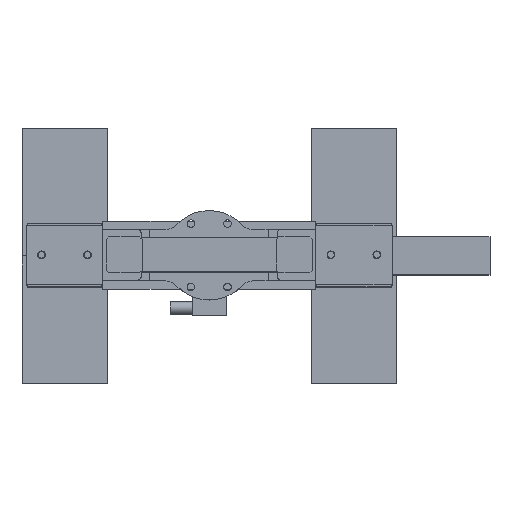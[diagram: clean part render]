
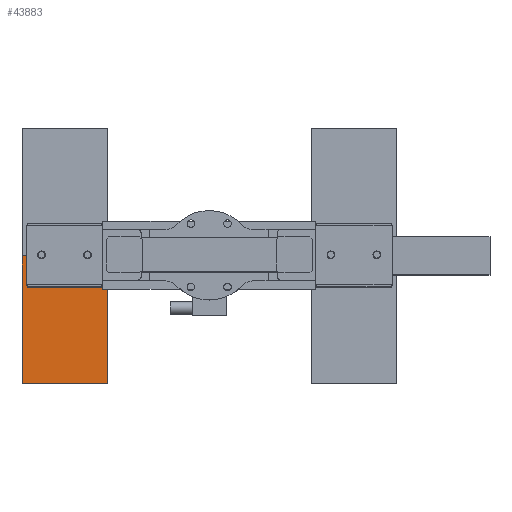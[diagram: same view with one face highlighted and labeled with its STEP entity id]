
A CAD part, top view. The second image highlights one B-rep face of the part: STEP entity #43883.
In plain terms, the highlighted planar face has unit normal (0, 0, 1).
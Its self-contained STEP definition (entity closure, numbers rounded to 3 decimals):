
#43669 = VERTEX_POINT('',#43670);
#43670 = CARTESIAN_POINT('',(-220.,-150.,60.));
#43676 = EDGE_CURVE('',#43669,#43677,#43679,.T.);
#43677 = VERTEX_POINT('',#43678);
#43678 = CARTESIAN_POINT('',(-120.,-150.,60.));
#43679 = LINE('',#43680,#43681);
#43680 = CARTESIAN_POINT('',(-220.,-150.,60.));
#43681 = VECTOR('',#43682,1.);
#43682 = DIRECTION('',(1.,0.,0.));
#43737 = VERTEX_POINT('',#43738);
#43738 = CARTESIAN_POINT('',(-220.,0.,60.));
#43744 = EDGE_CURVE('',#43669,#43737,#43745,.T.);
#43745 = LINE('',#43746,#43747);
#43746 = CARTESIAN_POINT('',(-220.,-150.,60.));
#43747 = VECTOR('',#43748,1.);
#43748 = DIRECTION('',(0.,1.,0.));
#43866 = VERTEX_POINT('',#43867);
#43867 = CARTESIAN_POINT('',(-120.,0.,60.));
#43873 = EDGE_CURVE('',#43677,#43866,#43874,.T.);
#43874 = LINE('',#43875,#43876);
#43875 = CARTESIAN_POINT('',(-120.,-150.,60.));
#43876 = VECTOR('',#43877,1.);
#43877 = DIRECTION('',(0.,1.,0.));
#43883 = ADVANCED_FACE('',(#43884),#43927,.T.);
#43884 = FACE_BOUND('',#43885,.T.);
#43885 = EDGE_LOOP('',(#43886,#43894,#43895,#43896,#43897,#43905,#43913,
    #43921));
#43886 = ORIENTED_EDGE('',*,*,#43887,.F.);
#43887 = EDGE_CURVE('',#43737,#43888,#43890,.T.);
#43888 = VERTEX_POINT('',#43889);
#43889 = CARTESIAN_POINT('',(-215.,0.,60.));
#43890 = LINE('',#43891,#43892);
#43891 = CARTESIAN_POINT('',(-220.,0.,60.));
#43892 = VECTOR('',#43893,1.);
#43893 = DIRECTION('',(1.,0.,0.));
#43894 = ORIENTED_EDGE('',*,*,#43744,.F.);
#43895 = ORIENTED_EDGE('',*,*,#43676,.T.);
#43896 = ORIENTED_EDGE('',*,*,#43873,.T.);
#43897 = ORIENTED_EDGE('',*,*,#43898,.F.);
#43898 = EDGE_CURVE('',#43899,#43866,#43901,.T.);
#43899 = VERTEX_POINT('',#43900);
#43900 = CARTESIAN_POINT('',(-125.,0.,60.));
#43901 = LINE('',#43902,#43903);
#43902 = CARTESIAN_POINT('',(-220.,0.,60.));
#43903 = VECTOR('',#43904,1.);
#43904 = DIRECTION('',(1.,0.,0.));
#43905 = ORIENTED_EDGE('',*,*,#43906,.F.);
#43906 = EDGE_CURVE('',#43907,#43899,#43909,.T.);
#43907 = VERTEX_POINT('',#43908);
#43908 = CARTESIAN_POINT('',(-125.,-35.,60.));
#43909 = LINE('',#43910,#43911);
#43910 = CARTESIAN_POINT('',(-125.,-35.,60.));
#43911 = VECTOR('',#43912,1.);
#43912 = DIRECTION('',(-0.,1.,0.));
#43913 = ORIENTED_EDGE('',*,*,#43914,.F.);
#43914 = EDGE_CURVE('',#43915,#43907,#43917,.T.);
#43915 = VERTEX_POINT('',#43916);
#43916 = CARTESIAN_POINT('',(-215.,-35.,60.));
#43917 = LINE('',#43918,#43919);
#43918 = CARTESIAN_POINT('',(-215.,-35.,60.));
#43919 = VECTOR('',#43920,1.);
#43920 = DIRECTION('',(1.,0.,-0.));
#43921 = ORIENTED_EDGE('',*,*,#43922,.T.);
#43922 = EDGE_CURVE('',#43915,#43888,#43923,.T.);
#43923 = LINE('',#43924,#43925);
#43924 = CARTESIAN_POINT('',(-215.,-35.,60.));
#43925 = VECTOR('',#43926,1.);
#43926 = DIRECTION('',(-0.,1.,0.));
#43927 = PLANE('',#43928);
#43928 = AXIS2_PLACEMENT_3D('',#43929,#43930,#43931);
#43929 = CARTESIAN_POINT('',(-220.,-150.,60.));
#43930 = DIRECTION('',(0.,0.,1.));
#43931 = DIRECTION('',(1.,0.,0.));
